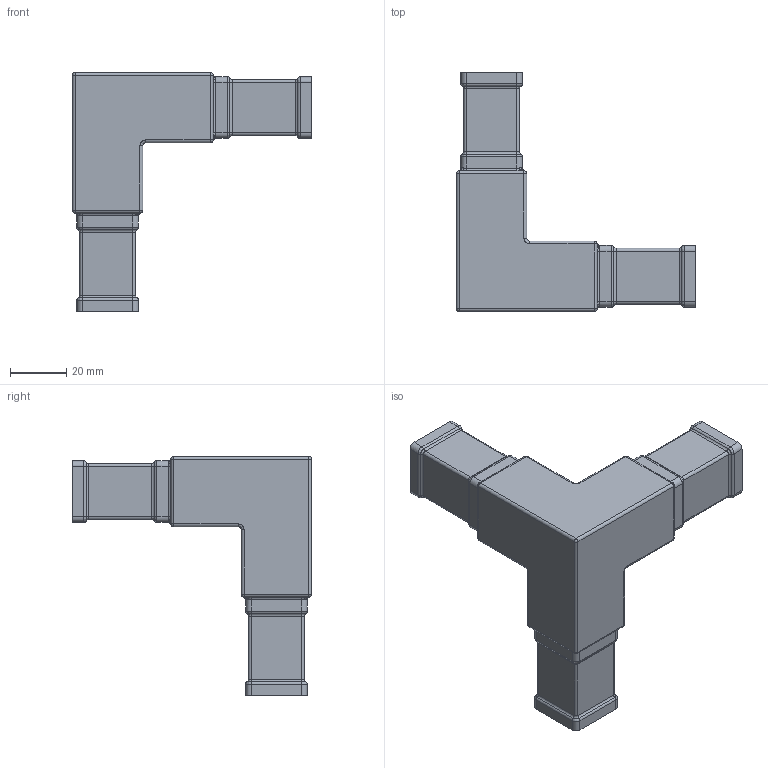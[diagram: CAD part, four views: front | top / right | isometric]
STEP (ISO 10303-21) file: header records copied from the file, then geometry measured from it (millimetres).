
FILE_DESCRIPTION (( 'STEP AP214' ), '1' );
FILE_NAME ('115.301.104.STEP', '2023-06-15T07:44:24', ( '' ), ( '' ), 'SwSTEP 2.0', 'SolidWorks 2021', '' );
FILE_SCHEMA (( 'AUTOMOTIVE_DESIGN' ));
Length unit declared in the file: millimetre
Products named in the file (1): 115.301.104
Bounding box: 85 x 85 x 85 mm (x, y, z)
Volume: 31126.2 mm3; surface area: 34381.7 mm2
Topology: 1 solids, 1 shells, 341 faces, 757 edges, 413 vertices
Faces by surface type: cylinder 123, plane 114, bspline 104
Entity records: 11219 total; most frequent: CARTESIAN_POINT 4173, ORIENTED_EDGE 1488, DIRECTION 1439, EDGE_CURVE 744, AXIS2_PLACEMENT_3D 529, VERTEX_POINT 413, VECTOR 381, LINE 381
